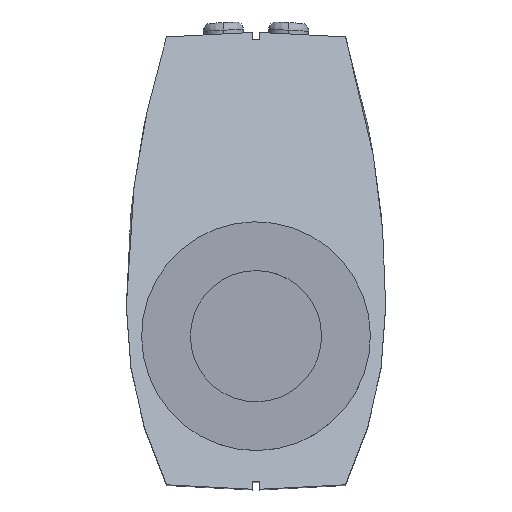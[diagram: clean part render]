
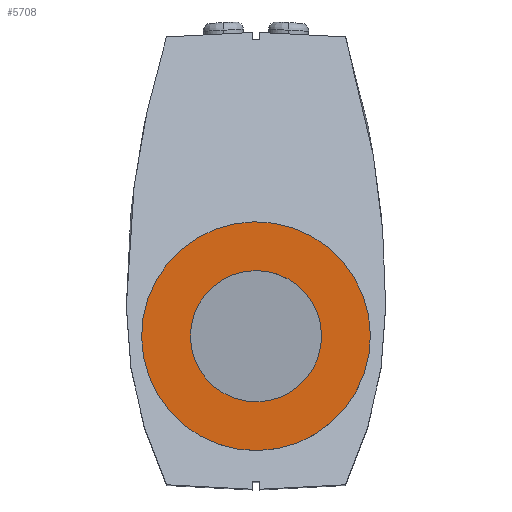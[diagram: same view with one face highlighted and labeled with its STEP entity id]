
A CAD part, top view. The second image highlights one B-rep face of the part: STEP entity #5708.
In plain terms, the highlighted planar face has unit normal (0, 0, 1).
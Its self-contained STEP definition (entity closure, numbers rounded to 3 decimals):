
#2979=CARTESIAN_POINT('',(-0.119,8.599,110.0));
#2980=VERTEX_POINT('',#2979);
#2996=CARTESIAN_POINT('',(8.599,0.119,110.0));
#2997=VERTEX_POINT('',#2996);
#3004=CARTESIAN_POINT('',(0.,0.,110.0));
#3005=DIRECTION('',(0.0,0.0,1.));
#3006=DIRECTION('',(1.,0.014,0.0));
#3007=AXIS2_PLACEMENT_3D('',#3004,#3005,#3006);
#3008=CIRCLE('',#3007,8.6);
#3009=EDGE_CURVE('',#2997,#2980,#3008,.T.);
#3019=CARTESIAN_POINT('',(0.207,-14.999,110.0));
#3020=VERTEX_POINT('',#3019);
#3029=CARTESIAN_POINT('',(-14.999,-0.207,110.0));
#3030=VERTEX_POINT('',#3029);
#3031=CARTESIAN_POINT('',(0.,0.,110.0));
#3032=DIRECTION('',(0.0,0.0,1.));
#3033=DIRECTION('',(1.,0.014,0.0));
#3034=AXIS2_PLACEMENT_3D('',#3031,#3032,#3033);
#3035=CIRCLE('',#3034,15.);
#3036=EDGE_CURVE('',#3030,#3020,#3035,.T.);
#3103=CARTESIAN_POINT('',(-0.207,14.999,110.0));
#3104=VERTEX_POINT('',#3103);
#3111=CARTESIAN_POINT('',(14.999,0.207,110.0));
#3112=VERTEX_POINT('',#3111);
#3113=CARTESIAN_POINT('',(0.,0.,110.0));
#3114=DIRECTION('',(0.0,0.0,1.));
#3115=DIRECTION('',(1.,0.014,0.0));
#3116=AXIS2_PLACEMENT_3D('',#3113,#3114,#3115);
#3117=CIRCLE('',#3116,15.);
#3118=EDGE_CURVE('',#3112,#3104,#3117,.T.);
#3137=CARTESIAN_POINT('',(0.119,-8.599,110.0));
#3138=VERTEX_POINT('',#3137);
#3154=CARTESIAN_POINT('',(-8.599,-0.119,110.0));
#3155=VERTEX_POINT('',#3154);
#3162=CARTESIAN_POINT('',(0.,0.,110.0));
#3163=DIRECTION('',(0.0,0.0,1.));
#3164=DIRECTION('',(1.,0.014,0.0));
#3165=AXIS2_PLACEMENT_3D('',#3162,#3163,#3164);
#3166=CIRCLE('',#3165,8.6);
#3167=EDGE_CURVE('',#3155,#3138,#3166,.T.);
#5360=CARTESIAN_POINT('',(0.,0.,110.0));
#5361=DIRECTION('',(0.0,0.0,1.));
#5362=DIRECTION('',(1.,0.014,0.0));
#5363=AXIS2_PLACEMENT_3D('',#5360,#5361,#5362);
#5364=CIRCLE('',#5363,8.6);
#5365=EDGE_CURVE('',#3138,#2997,#5364,.T.);
#5392=CARTESIAN_POINT('',(0.,0.,110.0));
#5393=DIRECTION('',(0.0,0.0,1.));
#5394=DIRECTION('',(1.,0.014,0.0));
#5395=AXIS2_PLACEMENT_3D('',#5392,#5393,#5394);
#5396=CIRCLE('',#5395,15.);
#5397=EDGE_CURVE('',#3104,#3030,#5396,.T.);
#5675=CARTESIAN_POINT('',(0.,0.,110.0));
#5676=DIRECTION('',(0.0,0.0,1.));
#5677=DIRECTION('',(1.,0.014,0.0));
#5678=AXIS2_PLACEMENT_3D('',#5675,#5676,#5677);
#5679=CIRCLE('',#5678,15.);
#5680=EDGE_CURVE('',#3020,#3112,#5679,.T.);
#5685=CARTESIAN_POINT('',(16.726,-16.271,110.0));
#5686=DIRECTION('',(0.0,0.0,1.0));
#5687=DIRECTION('',(1.0,0.0,0.0));
#5688=AXIS2_PLACEMENT_3D('',#5685,#5686,#5687);
#5689=PLANE('',#5688);
#5690=ORIENTED_EDGE('',*,*,#3118,.T.);
#5691=ORIENTED_EDGE('',*,*,#5397,.T.);
#5692=ORIENTED_EDGE('',*,*,#3036,.T.);
#5693=ORIENTED_EDGE('',*,*,#5680,.T.);
#5694=EDGE_LOOP('',(#5690,#5691,#5692,#5693));
#5695=FACE_OUTER_BOUND('',#5694,.T.);
#5696=ORIENTED_EDGE('',*,*,#3009,.F.);
#5697=ORIENTED_EDGE('',*,*,#5365,.F.);
#5698=ORIENTED_EDGE('',*,*,#3167,.F.);
#5699=CARTESIAN_POINT('',(0.,0.,110.0));
#5700=DIRECTION('',(0.0,0.0,1.));
#5701=DIRECTION('',(1.,0.014,0.0));
#5702=AXIS2_PLACEMENT_3D('',#5699,#5700,#5701);
#5703=CIRCLE('',#5702,8.6);
#5704=EDGE_CURVE('',#2980,#3155,#5703,.T.);
#5705=ORIENTED_EDGE('',*,*,#5704,.F.);
#5706=EDGE_LOOP('',(#5696,#5697,#5698,#5705));
#5707=FACE_BOUND('',#5706,.T.);
#5708=ADVANCED_FACE('',(#5695,#5707),#5689,.T.);
